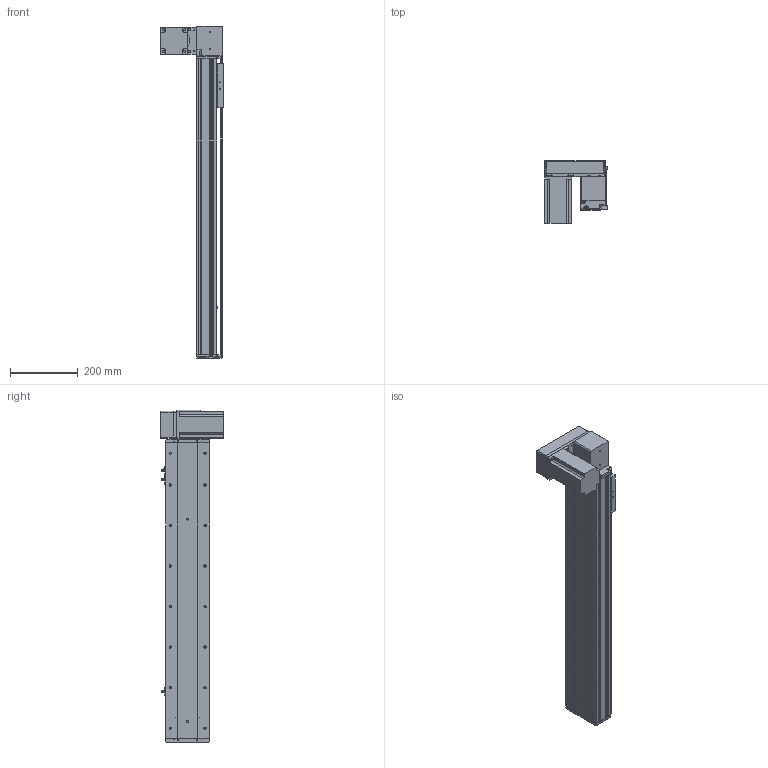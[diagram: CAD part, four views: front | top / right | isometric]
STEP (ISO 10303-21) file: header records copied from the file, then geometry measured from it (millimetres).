
FILE_DESCRIPTION (( 'STEP AP214' ), '1' );
FILE_NAME ('KSD130B-S650-MRD-CM.STEP', '2019-11-15T08:39:46', ( '微软用户' ), ( '微软中国' ), 'SwSTEP 2.0', 'SolidWorks 2014', '' );
FILE_SCHEMA (( 'AUTOMOTIVE_DESIGN' ));
Length unit declared in the file: millimetre
Products named in the file (12): KSD130B-S650-MRD-CM; 130宽模组保护罩上下左右折-同步带; 台达ECMA－C20807AS伺服电机; 130宽模组马达安装板连板上下折丝杆同步带; 覜茼え100遵圉猾敕; U倰嫖萇EEㄜSX672; 130宽盖板半封闭同步带-650行程; 130宽马达安装板同步带右-改镜向_默认<按加工>; 130宽马达安装板同步带半封闭; 130宽同步带安装座半封闭; 130宽端盖同步带半封闭; 130宽底板半封闭同步带-650行程
Assembly tree (13 placements, depth 2):
  KSD130B-S650-MRD-CM
    130宽底板半封闭同步带-650行程
    130宽端盖同步带半封闭
    130宽同步带安装座半封闭
    130宽马达安装板同步带半封闭
    130宽马达安装板同步带右-改镜向_默认<按加工>
    130宽盖板半封闭同步带-650行程
    U倰嫖萇EEㄜSX672  x3
    覜茼え100遵圉猾敕
    130宽模组马达安装板连板上下折丝杆同步带
    台达ECMA－C20807AS伺服电机
    130宽模组保护罩上下左右折-同步带
Bounding box: 186 x 184.8 x 983 mm (x, y, z)
Volume: 4021526.9 mm3; surface area: 1066726.6 mm2
Topology: 14 solids, 14 shells, 1449 faces, 4105 edges, 2631 vertices
Faces by surface type: cylinder 684, plane 614, cone 151
Entity records: 46875 total; most frequent: CARTESIAN_POINT 8520, DIRECTION 7175, ORIENTED_EDGE 6894, EDGE_CURVE 3447, AXIS2_PLACEMENT_3D 2606, VERTEX_POINT 2255, VECTOR 1963, LINE 1963
